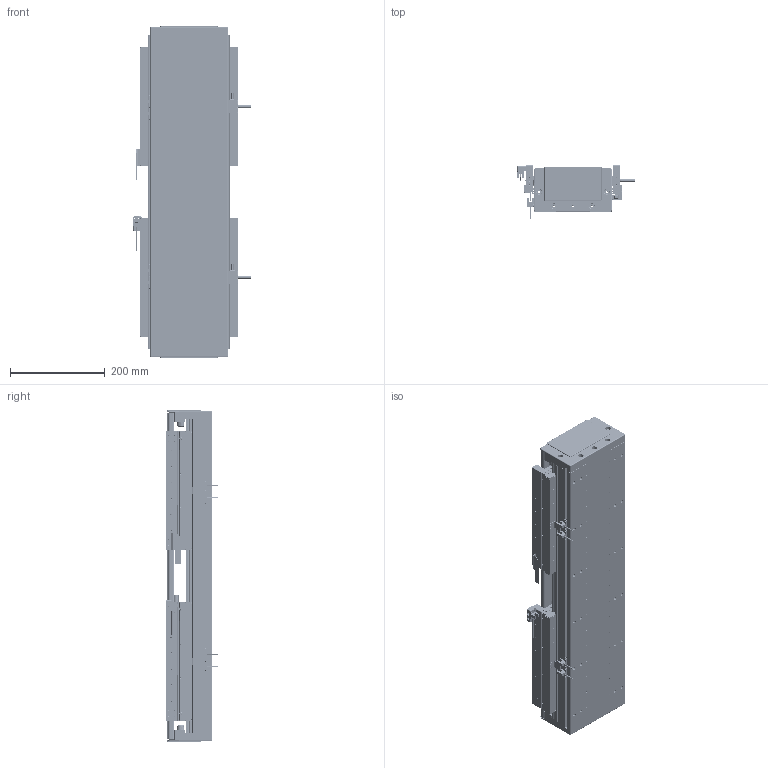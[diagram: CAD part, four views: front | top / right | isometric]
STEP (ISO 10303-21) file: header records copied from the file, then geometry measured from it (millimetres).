
FILE_DESCRIPTION (( 'STEP AP203' ), '1' );
FILE_NAME ('DA-C165-2-C3-T80-C010-0.2 直线电机.STEP', '2023-06-13T09:36:09', ( '微软用户' ), ( '微软中国' ), 'SwSTEP 2.0', 'SolidWorks 2019', '' );
FILE_SCHEMA (( 'CONFIG_CONTROL_DESIGN' ));
Length unit declared in the file: millimetre
Products named in the file (19): 复件 六角薄螺母 M3^DA-C165-C3-T-C010-0.2-N 直线电机_GB_FASTENER_NUT_STNAB M3-C; 复件 DA165-T-002-00 盖板^DA-C165-C3-T-C010-0.2-N 直线电机_0840-002-00; 复件 DKW-HXJ-JY-00 缓冲橡胶^DA-C165-C3-T-C010-0.2-N 直线电机; IU-CU165-L 菁釱絳寢; 复件 66338-1000-006-00 光电感应块^DA-C165-C3-T-C010-0.2-N 直线电机; 复件 DMA-010-0.2 读数头^DA-C165-C3-T-C010-0.2-N 直线电机; 复件 DA95-HXJ-00 缓冲橡胶^DA-C165-C3-T-C010-0.2-N 直线电机; 葩璃 CKM03-W075-C1C2-TP-3.0^DA-C165-C3-T-C010-0.2-N 眻盄萇儂; 复件 CU165 底座^IU-CU165-L 底座导轨_L660; 复件 DA165-GYP-00 光电感应片^DA-C165-C3-T-C010-0.2-N 直线电机; 复件 XD-U-02L 磁栅尺^DA-C165-C3-T-C010-0.2-N 直线电机_T; 复件 DA165-DG-H-N-00 端盖^DA-C165-C3-T-C010-0.2-N 直线电机; DA-C165-2-C3-T80-C010-0.2 眻盄萇儂; 葩璃 PM-T45^DA-C165-C3-T-C010-0.2-N 眻盄萇儂; 葩璃 PM-Y45^DA-C165-C3-T-C010-0.2-N 眻盄萇儂; 复件 DA126-GYP-ZJ-00 中间光电感应片^DA-C165-C3-T-C010-0.2-N 直线电机; 葩璃 CKM01-W075-TRL^DA-C165-C3-T-C010-0.2-N 眻盄萇儂; 葩璃 DA95-GT-T-00^IU-CU165-L 菁釱絳寢_T; 珨极趙賑雄怢啣C3-wf
Assembly tree (40 placements, depth 3):
  DA-C165-2-C3-T80-C010-0.2 眻盄萇儂
    IU-CU165-L 菁釱絳寢
      复件 CU165 底座^IU-CU165-L 底座导轨_L660
      葩璃 DA95-GT-T-00^IU-CU165-L 菁釱絳寢_T  x4
    复件 DA165-DG-H-N-00 端盖^DA-C165-C3-T-C010-0.2-N 直线电机  x2
    复件 DA95-HXJ-00 缓冲橡胶^DA-C165-C3-T-C010-0.2-N 直线电机  x4
    复件 DA165-T-002-00 盖板^DA-C165-C3-T-C010-0.2-N 直线电机_0840-002-00
    复件 XD-U-02L 磁栅尺^DA-C165-C3-T-C010-0.2-N 直线电机_T
    葩璃 PM-T45^DA-C165-C3-T-C010-0.2-N 眻盄萇儂  x4
    葩璃 CKM01-W075-TRL^DA-C165-C3-T-C010-0.2-N 眻盄萇儂
    复件 DMA-010-0.2 读数头^DA-C165-C3-T-C010-0.2-N 直线电机  x2
    复件 DA165-GYP-00 光电感应片^DA-C165-C3-T-C010-0.2-N 直线电机  x2
    复件 66338-1000-006-00 光电感应块^DA-C165-C3-T-C010-0.2-N 直线电机
    葩璃 PM-Y45^DA-C165-C3-T-C010-0.2-N 眻盄萇儂
    复件 DA126-GYP-ZJ-00 中间光电感应片^DA-C165-C3-T-C010-0.2-N 直线电机
    葩璃 CKM03-W075-C1C2-TP-3.0^DA-C165-C3-T-C010-0.2-N 眻盄萇儂  x2
    复件 DKW-HXJ-JY-00 缓冲橡胶^DA-C165-C3-T-C010-0.2-N 直线电机  x2
    复件 六角薄螺母 M3^DA-C165-C3-T-C010-0.2-N 直线电机_GB_FASTENER_NUT_STNAB M3-C  x8
    珨极趙賑雄怢啣C3-wf  x2
Bounding box: 247.2 x 111.45 x 700 mm (x, y, z)
Volume: 8461200.3 mm3; surface area: 1981009.4 mm2
Topology: 117 solids, 217 shells, 5578 faces, 14273 edges, 8704 vertices
Faces by surface type: cylinder 2560, plane 1966, cone 956, torus 88, sphere 8
Entity records: 101024 total; most frequent: CARTESIAN_POINT 22386, DIRECTION 16317, ORIENTED_EDGE 15432, EDGE_CURVE 7716, AXIS2_PLACEMENT_3D 6107, VERTEX_POINT 4958, VECTOR 4103, LINE 4103
